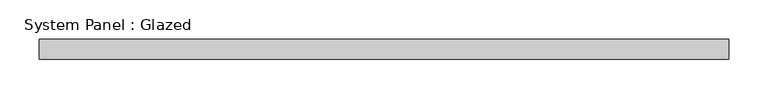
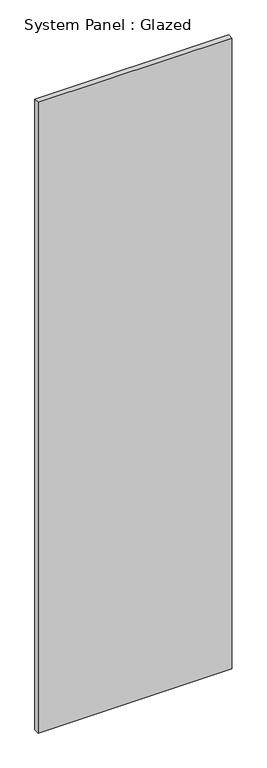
"""IFC4 building model written with IfcOpenShell, lengths in millimetres: plate geometry, System Panel : Glazed."""

from ifc_helpers import new_model, si_unit, origin, origin_with_axes, place, context, project, spatial, polyline, outline, extrude, source, transform, mapped, element, save


def system_panel_glazed_7d5881fa(model_context):
    return source(origin(), model_context, "Body", "SweptSolid", [
        extrude(outline(polyline([(437.5, -72.5), (-437.5, -72.5), (-437.5, -47.5), (437.5, -47.5), (437.5, -72.5)])), origin_with_axes(), (0.0, 0.0, 1.0), 3012.4038106),
    ])


if __name__ == "__main__":
    model = new_model("IFC4")
    model_context = context("Model", 3, world=origin())
    ifc_project = project(units=[si_unit("LENGTHUNIT", "METRE", prefix="MILLI")], contexts=[model_context])
    site = spatial("IfcSite", under=ifc_project)
    building = spatial("IfcBuilding", under=site)
    placement = place(None, origin())
    system_panel_glazed_shape = system_panel_glazed_7d5881fa(model_context)
    element("IfcPlate", 1, ObjectType="System Panel : Glazed", at=placement, inside=building, context=model_context, shape_type="MappedRepresentation", body=[
        mapped(system_panel_glazed_shape, transform((0.0, 0.0, 0.0), x_axis=(1.0, 0.0, 0.0), y_axis=(0.0, 1.0, 0.0), z_axis=(0.0, 0.0, 1.0))),
    ])
    save(model, "model.ifc")
